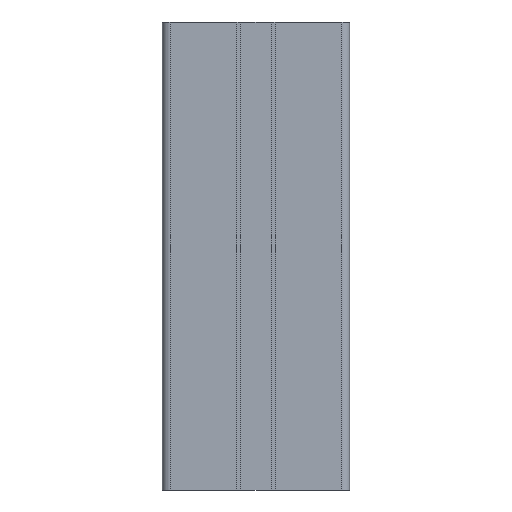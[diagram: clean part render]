
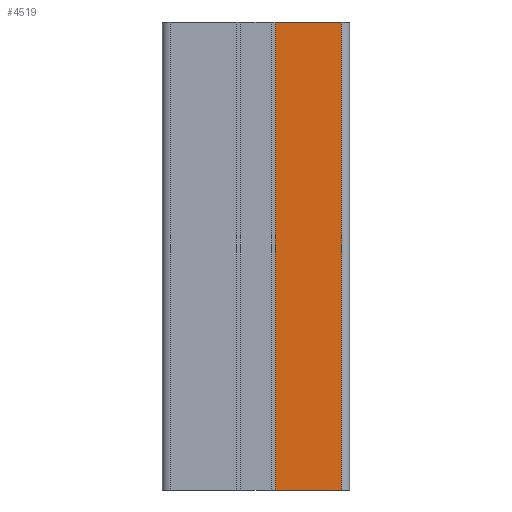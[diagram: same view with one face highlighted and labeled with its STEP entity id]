
A CAD part, front view. The second image highlights one B-rep face of the part: STEP entity #4519.
In plain terms, the highlighted planar face has unit normal (0, -1, 0).
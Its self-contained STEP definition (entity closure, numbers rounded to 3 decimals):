
#4480=CARTESIAN_POINT('',(275.202,167.001,0.0));
#4481=DIRECTION('',(0.0,-1.0,0.0));
#4482=DIRECTION('',(0.0,0.0,-1.0));
#4483=AXIS2_PLACEMENT_3D('',#4480,#4481,#4482);
#4484=PLANE('',#4483);
#4485=CARTESIAN_POINT('',(275.202,167.001,150.0));
#4486=VERTEX_POINT('',#4485);
#4487=CARTESIAN_POINT('',(253.802,167.001,150.0));
#4488=VERTEX_POINT('',#4487);
#4489=CARTESIAN_POINT('',(275.202,167.001,150.0));
#4490=DIRECTION('',(-1.0,0.0,0.0));
#4491=VECTOR('',#4490,21.4);
#4492=LINE('',#4489,#4491);
#4493=EDGE_CURVE('',#4486,#4488,#4492,.T.);
#4494=ORIENTED_EDGE('',*,*,#4493,.T.);
#4495=CARTESIAN_POINT('',(253.802,167.001,0.0));
#4496=VERTEX_POINT('',#4495);
#4497=CARTESIAN_POINT('',(253.802,167.001,0.0));
#4498=DIRECTION('',(0.0,0.0,1.0));
#4499=VECTOR('',#4498,150.0);
#4500=LINE('',#4497,#4499);
#4501=EDGE_CURVE('',#4496,#4488,#4500,.T.);
#4502=ORIENTED_EDGE('',*,*,#4501,.F.);
#4503=CARTESIAN_POINT('',(275.202,167.001,0.0));
#4504=VERTEX_POINT('',#4503);
#4505=CARTESIAN_POINT('',(253.802,167.001,0.0));
#4506=DIRECTION('',(1.0,0.0,0.0));
#4507=VECTOR('',#4506,21.4);
#4508=LINE('',#4505,#4507);
#4509=EDGE_CURVE('',#4496,#4504,#4508,.T.);
#4510=ORIENTED_EDGE('',*,*,#4509,.T.);
#4511=CARTESIAN_POINT('',(275.202,167.001,0.0));
#4512=DIRECTION('',(0.0,0.0,1.0));
#4513=VECTOR('',#4512,150.0);
#4514=LINE('',#4511,#4513);
#4515=EDGE_CURVE('',#4504,#4486,#4514,.T.);
#4516=ORIENTED_EDGE('',*,*,#4515,.T.);
#4517=EDGE_LOOP('',(#4494,#4502,#4510,#4516));
#4518=FACE_OUTER_BOUND('',#4517,.T.);
#4519=ADVANCED_FACE('',(#4518),#4484,.T.);
